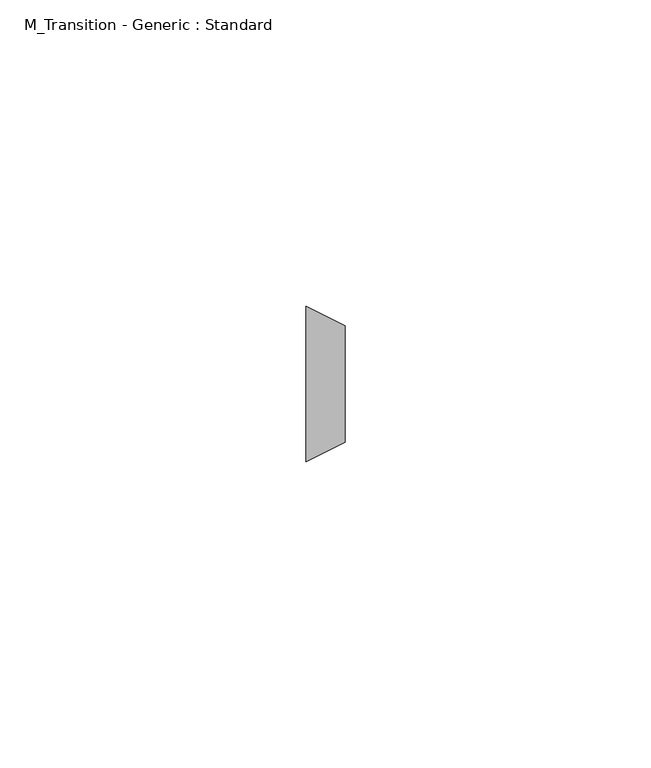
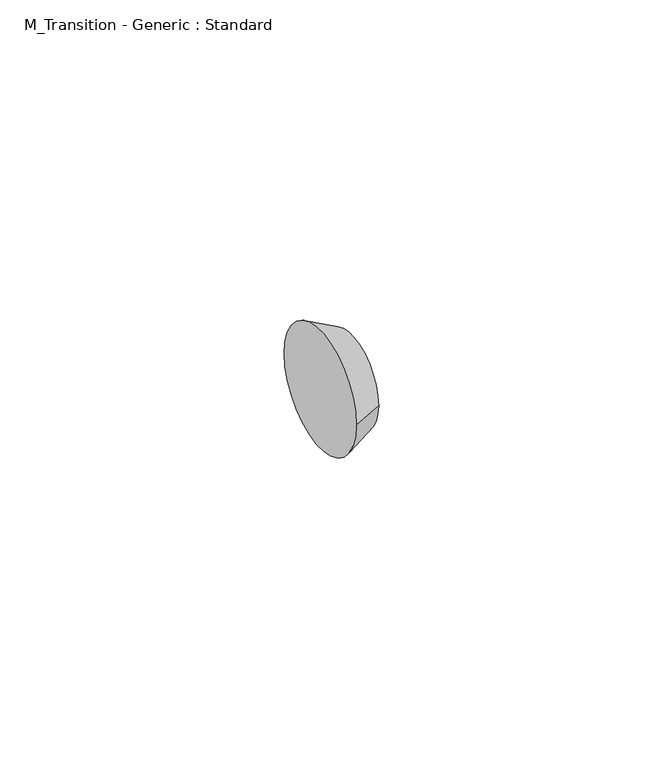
"""IFC4 building model written with IfcOpenShell, lengths in millimetres: pipe fitting geometry, M_Transition - Generic : Standard."""

from ifc_helpers import new_model, si_unit, frame, origin, place, context, project, spatial, polyline, circle_curve, source, transform, mapped, element, save
from ifc_brep_helpers import plane_surface, revolved_surface, advanced_brep


def m_transition_generic_standard_22c7c9f4(model_context):
    return source(origin(), model_context, "Body", "AdvancedBrep", [
        advanced_brep(
        [(6.35, -9.525, 0.0), (6.35, 9.525, 0.0), (0.0, -12.7, 0.0), (0.0, 12.7, 0.0)],
        [
            (0, 1, circle_curve(frame((6.35, 0.0, 0.0), z_axis=(1.0, 0.0, 0.0), x_axis=(0.0, -1.0, 0.0)), 9.525)),
            (1, 0, circle_curve(frame((6.35, 0.0, 0.0), z_axis=(1.0, 0.0, 0.0), x_axis=(0.0, 1.0, 0.0)), 9.525)),
            (2, 3, circle_curve(frame((0.0, 0.0, 0.0), z_axis=(-1.0, 0.0, 0.0), x_axis=(0.0, 1.0, 0.0)), 12.7)),
            (3, 2, circle_curve(frame((0.0, 0.0, 0.0), z_axis=(-1.0, 0.0, 0.0), x_axis=(0.0, -1.0, 0.0)), 12.7)),
            (3, 1),
            (0, 2),
        ],
        [
            plane_surface(frame((6.35, 0.0, 0.0), z_axis=(1.0, 0.0, 0.0), x_axis=(0.0, 0.0, -1.0))),
            plane_surface(frame((0.0, 0.0, 0.0), z_axis=(-1.0, 0.0, 0.0), x_axis=(0.0, 0.0, -1.0))),
            revolved_surface(polyline([(6.350000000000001, -9.524999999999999, 0.0), (0.0, -12.7, 0.0)]), (25.4, 0.0, 0.0), (-1.0, 0.0, 0.0)),
            revolved_surface(polyline([(6.350000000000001, 9.524999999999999, 0.0), (0.0, 12.7, 0.0)]), (25.4, 0.0, 0.0), (-1.0, 0.0, 0.0)),
        ],
        [
            (0, [[1, 2]]),
            (1, [[3, 4]]),
            (2, [[-4, 5, -1, 6]]),
            (3, [[-3, -6, -2, -5]]),
        ],
    ),
    ])


if __name__ == "__main__":
    model = new_model("IFC4")
    model_context = context("Model", 3, world=origin())
    ifc_project = project(units=[si_unit("LENGTHUNIT", "METRE", prefix="MILLI")], contexts=[model_context])
    site = spatial("IfcSite", under=ifc_project)
    building = spatial("IfcBuilding", under=site)
    placement = place(None, origin())
    m_transition_generic_standard_shape = m_transition_generic_standard_22c7c9f4(model_context)
    element("IfcPipeFitting", 1, ObjectType="M_Transition - Generic : Standard", at=placement, inside=building, context=model_context, shape_type="MappedRepresentation", body=[
        mapped(m_transition_generic_standard_shape, transform((0.0, 0.0, 0.0), x_axis=(1.0, 0.0, 0.0), y_axis=(0.0, 1.0, 0.0), z_axis=(0.0, 0.0, 1.0))),
    ])
    save(model, "model.ifc")
